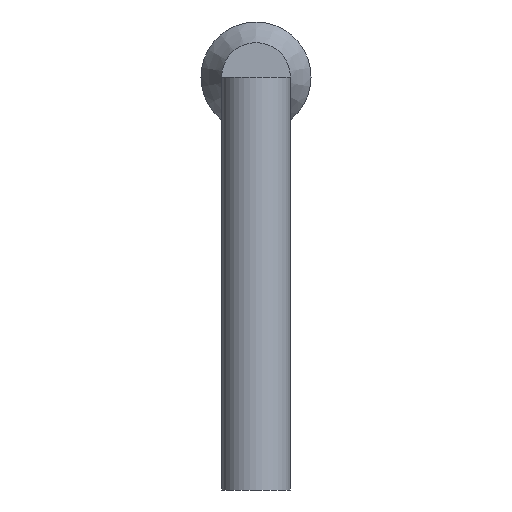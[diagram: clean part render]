
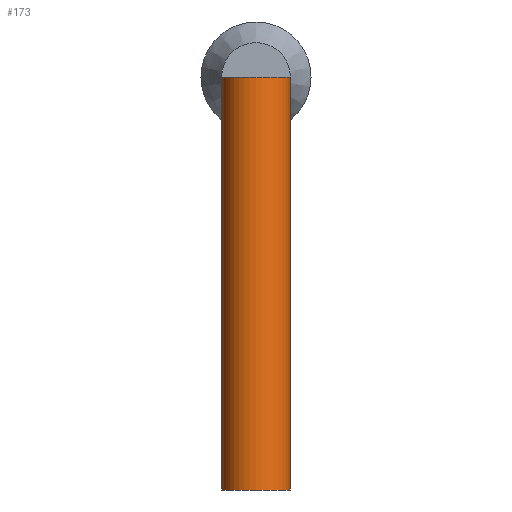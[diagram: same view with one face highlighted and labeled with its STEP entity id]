
A CAD part, left-side view. The second image highlights one B-rep face of the part: STEP entity #173.
In plain terms, the highlighted cylindrical face has radius 0.25 mm (diameter 0.5 mm), a full revolution.
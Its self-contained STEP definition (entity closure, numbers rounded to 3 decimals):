
#173 = ADVANCED_FACE('',(#174),#201,.T.);
#174 = FACE_BOUND('',#175,.T.);
#175 = EDGE_LOOP('',(#176,#185,#193,#200));
#176 = ORIENTED_EDGE('',*,*,#177,.F.);
#177 = EDGE_CURVE('',#178,#178,#180,.T.);
#178 = VERTEX_POINT('',#179);
#179 = CARTESIAN_POINT('',(-6.6,0.,-3.));
#180 = CIRCLE('',#181,0.25);
#181 = AXIS2_PLACEMENT_3D('',#182,#183,#184);
#182 = CARTESIAN_POINT('',(-6.35,0.,-3.));
#183 = DIRECTION('',(0.,0.,-1.));
#184 = DIRECTION('',(-1.,0.,-0.));
#185 = ORIENTED_EDGE('',*,*,#186,.F.);
#186 = EDGE_CURVE('',#187,#178,#189,.T.);
#187 = VERTEX_POINT('',#188);
#188 = CARTESIAN_POINT('',(-6.6,0.,0.));
#189 = LINE('',#190,#191);
#190 = CARTESIAN_POINT('',(-6.6,0.,0.));
#191 = VECTOR('',#192,1.);
#192 = DIRECTION('',(0.,0.,-1.));
#193 = ORIENTED_EDGE('',*,*,#194,.T.);
#194 = EDGE_CURVE('',#187,#187,#195,.T.);
#195 = CIRCLE('',#196,0.25);
#196 = AXIS2_PLACEMENT_3D('',#197,#198,#199);
#197 = CARTESIAN_POINT('',(-6.35,0.,0.));
#198 = DIRECTION('',(0.,0.,-1.));
#199 = DIRECTION('',(-1.,0.,-0.));
#200 = ORIENTED_EDGE('',*,*,#186,.T.);
#201 = CYLINDRICAL_SURFACE('',#202,0.25);
#202 = AXIS2_PLACEMENT_3D('',#203,#204,#205);
#203 = CARTESIAN_POINT('',(-6.35,0.,0.));
#204 = DIRECTION('',(0.,0.,-1.));
#205 = DIRECTION('',(-1.,0.,-0.));
